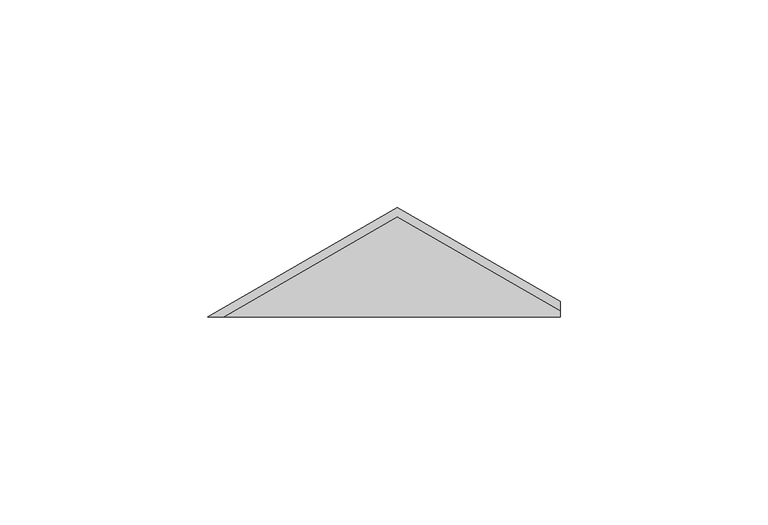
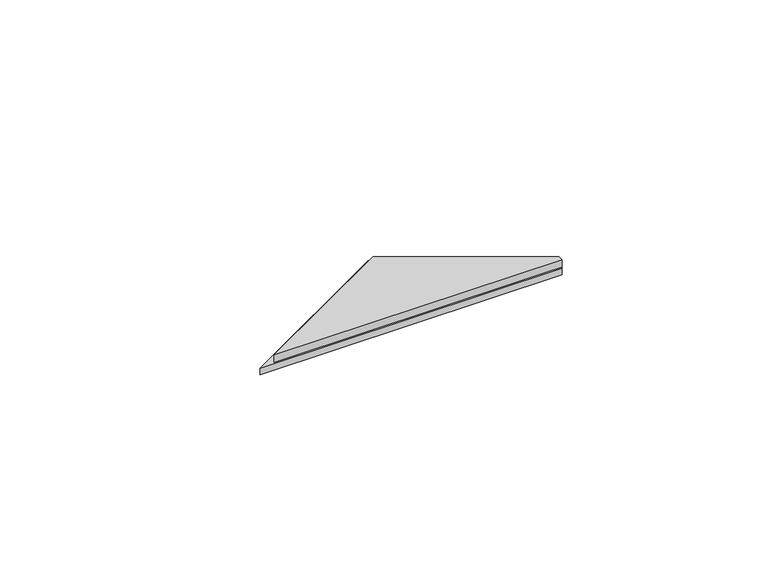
"""IFC4 building model written with IfcOpenShell, lengths in millimetres: proxy geometry, PBSHOP - CUBICA PISTACHE 4,8X8,3 : CUBICA PISTACHE - POSIÇÃO 03."""

from ifc_helpers import new_model, si_unit, origin, place, context, project, spatial, faceted_brep, source, transform, mapped, element, save


def generic_models_01361f29(model_context):
    return source(origin(), model_context, "Body", "Brep", [
        faceted_brep([(0.0, 26.3094011, 2.0), (-45.5692194, 0.0, 2.0), (39.1692194, -0.0094011, 2.0), (39.1692194, 3.6950417, 2.0), (-45.5692194, 0.0, 0.0), (0.0, 26.3094011, 0.0), (39.1692194, 3.6950417, 0.0), (39.1692194, -0.0094011, 0.0)], [[[0, 1, 2, 3]], [[4, 5, 6, 7]], [[1, 0, 5, 4]], [[5, 0, 3, 6]], [[2, 7, 6, 3]], [[7, 2, 1, 4]]]),
        faceted_brep([(0.0, 24.0, 4.5), (-41.5692194, 0.0, 4.5), (39.1692194, -0.0094011, 4.5), (39.1692194, 1.3856406, 4.5), (-41.5692194, 0.0, 2.0), (0.0, 24.0, 2.0), (39.1692194, 1.3856406, 2.0), (39.1692194, -0.0094011, 2.0)], [[[0, 1, 2, 3]], [[4, 5, 6, 7]], [[1, 0, 5, 4]], [[5, 0, 3, 6]], [[2, 7, 6, 3]], [[7, 2, 1, 4]]]),
    ])


if __name__ == "__main__":
    model = new_model("IFC4")
    model_context = context("Model", 3, world=origin())
    ifc_project = project(units=[si_unit("LENGTHUNIT", "METRE", prefix="MILLI")], contexts=[model_context])
    site = spatial("IfcSite", under=ifc_project)
    building = spatial("IfcBuilding", under=site)
    placement = place(None, origin())
    generic_models_shape = generic_models_01361f29(model_context)
    element("IfcBuildingElementProxy", 1, Name="PBSHOP - CUBICA PISTACHE 4,8X8,3 : CUBICA PISTACHE - POSIÇÃO 03", ObjectType="PBSHOP - CUBICA PISTACHE 4,8X8,3 : CUBICA PISTACHE - POSIÇÃO 03", at=placement, inside=building, context=model_context, shape_type="MappedRepresentation", body=[
        mapped(generic_models_shape, transform((0.0, 0.0, 0.0), x_axis=(1.0, 0.0, 0.0), y_axis=(0.0, 1.0, 0.0), z_axis=(0.0, 0.0, 1.0))),
    ])
    save(model, "model.ifc")
